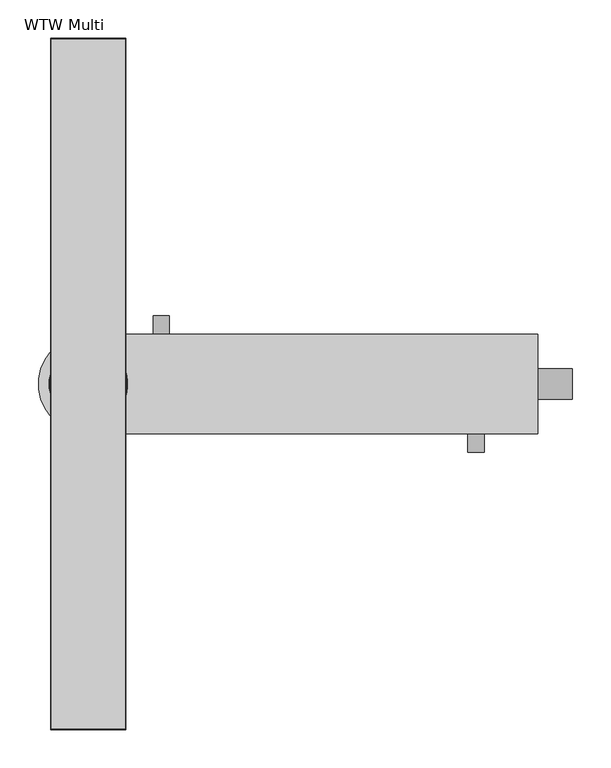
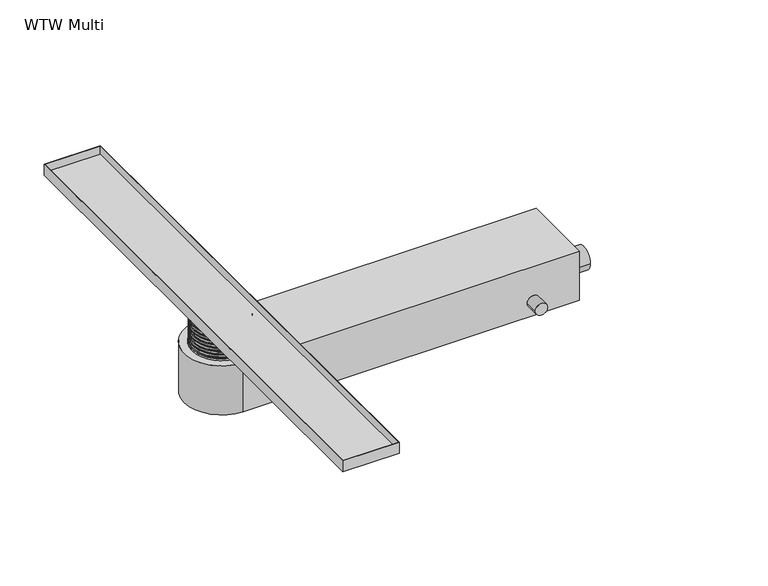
"""IFC4 building model written with IfcOpenShell, lengths in millimetres: sanitary terminal geometry, NLRS_PF_52_UN_WTW systeem Multi grate_Easydrain : WTW Multi."""

import ifcopenshell
import ifcopenshell.guid

model = None  # the IFC model being written
_history = None  # IfcOwnerHistory: only IFC2X3 demands one
_inside = {}  # id of a spatial element -> (the spatial element, [elements in it])
_under = {}  # id of a project, library or spatial element -> (it, [spatial elements below it])
_declared = {}  # id of a project -> (the project, [libraries it declares])
_typed = {}  # id of a type object -> (the type object, [elements of that type])
_made_of = {}  # id of a material, layer set ... -> (it, [elements and type objects made of it])


def new_model(schema):
    """Start an empty IFC model of exactly this schema.

    Asked for "IFC4X3", IfcOpenShell would pick the latest addendum, in which some entities
    have other attributes; the version numbers below select the first issue.
    IFC2X3 requires an IfcOwnerHistory on every rooted entity: one is made here for all.
    """
    global model, _history
    if schema == "IFC4X3":
        model = ifcopenshell.file(schema_version=(4, 3, 0, 0))
    else:
        model = ifcopenshell.file(schema=schema)
    _inside.clear()
    _under.clear()
    _declared.clear()
    _typed.clear()
    _made_of.clear()
    _history = None
    if model.schema == "IFC2X3":
        org = make("IfcOrganization", Name="unknown")
        user = make(
            "IfcPersonAndOrganization",
            ThePerson=make("IfcPerson", FamilyName="unknown"),
            TheOrganization=org,
        )
        app = make(
            "IfcApplication",
            ApplicationDeveloper=org,
            Version="unknown",
            ApplicationFullName="unknown",
            ApplicationIdentifier="unknown",
        )
        _history = make(
            "IfcOwnerHistory",
            OwningUser=user,
            OwningApplication=app,
            ChangeAction="ADDED",
            CreationDate=0,
        )
    return model


def make(cls, **values):
    """One entity of the class cls with the attributes given. An attribute that is None is left unset."""
    return model.create_entity(
        cls, **{name: value for name, value in values.items() if value is not None}
    )


def rooted(cls, **values):
    """An entity with a GlobalId (a new one), such as an element, a storey or a relation."""
    return make(cls, GlobalId=ifcopenshell.guid.new(), OwnerHistory=_history, **values)


def si_unit(unit_type, name, prefix=None):
    """IfcSIUnit, for example si_unit("LENGTHUNIT", "METRE", prefix="MILLI")."""
    return make("IfcSIUnit", UnitType=unit_type, Prefix=prefix, Name=name)


def assignment(units):
    """IfcUnitAssignment: the units of a project."""
    return None if units is None else make("IfcUnitAssignment", Units=units)


def point(xyz):
    """IfcCartesianPoint."""
    return None if xyz is None else make("IfcCartesianPoint", Coordinates=xyz)


def direction(xyz):
    """IfcDirection."""
    return None if xyz is None else make("IfcDirection", DirectionRatios=xyz)


def frame(location, z_axis=None, x_axis=None):
    """IfcAxis2Placement3D, a coordinate frame: its origin and axes. An axis left out is left unset."""
    return make(
        "IfcAxis2Placement3D",
        Location=point(location),
        Axis=direction(z_axis),
        RefDirection=direction(x_axis),
    )


def origin():
    """The frame at (0, 0, 0) with its axes left unset."""
    return frame((0.0, 0.0, 0.0))


def place(relative_to, where):
    """IfcLocalPlacement: puts the frame where relative to a parent placement (None: the world)."""
    return make(
        "IfcLocalPlacement", PlacementRelTo=relative_to, RelativePlacement=where
    )


def context(
    kind, dimensions, precision=None, world=None, true_north=None, identifier=None
):
    """IfcGeometricRepresentationContext, for example the 3D "Model" context."""
    return make(
        "IfcGeometricRepresentationContext",
        ContextIdentifier=identifier,
        ContextType=kind,
        CoordinateSpaceDimension=dimensions,
        Precision=precision,
        WorldCoordinateSystem=world,
        TrueNorth=true_north,
    )


def project(units=None, contexts=None):
    """IfcProject with its units and contexts."""
    return rooted(
        "IfcProject",
        Name="project",
        RepresentationContexts=contexts,
        UnitsInContext=assignment(units),
    )


def spatial(cls, under=None, at=None, **own):
    """A site, building, storey or space (cls), placed at a placement, below another one or the project."""
    s = rooted(cls, ObjectPlacement=at, **own)
    if under is not None:
        _under.setdefault(under.id(), (under, []))[1].append(s)
    return s


def polyline(points):
    """IfcPolyline through the points."""
    return make("IfcPolyline", Points=[point(p) for p in points])


def circle_curve(where, radius):
    """IfcCircle in the frame where."""
    return make("IfcCircle", Position=where, Radius=radius)


def faces_of(points, faces, orient=None, outer=None):
    """IfcFace entities. A face is a list of loops; a loop is a list of indices into points, from 0.

    orient and outer hold one flag for each loop. By default every Orientation is true, the
    first loop of a face is its IfcFaceOuterBound and the others are IfcFaceBound.
    """
    made = []
    for i, loops in enumerate(faces):
        bounds = []
        for j, loop in enumerate(loops):
            is_outer = j == 0 if outer is None else outer[i][j]
            bounds.append(
                make(
                    "IfcFaceOuterBound" if is_outer else "IfcFaceBound",
                    Bound=make("IfcPolyLoop", Polygon=[points[k] for k in loop]),
                    Orientation=True if orient is None else orient[i][j],
                )
            )
        made.append(make("IfcFace", Bounds=bounds))
    return made


def faceted_brep(points, faces, orient=None, outer=None, voids=None):
    """IfcFacetedBrep: a solid bounded by flat faces; with voids (closed shells), ...WithVoids."""
    shared = [point(p) for p in points]
    hull = make("IfcClosedShell", CfsFaces=faces_of(shared, faces, orient, outer))
    if voids is None:
        return make("IfcFacetedBrep", Outer=hull)
    return make(
        "IfcFacetedBrepWithVoids",
        Outer=hull,
        Voids=[
            make(cls, CfsFaces=faces_of(shared, fs, o, b)) for cls, fs, o, b in voids
        ],
    )


def shape(context_of_items, identifier, shape_type, items):
    """IfcShapeRepresentation: the items that make up one representation, for example the "Body"."""
    return make(
        "IfcShapeRepresentation",
        ContextOfItems=context_of_items,
        RepresentationIdentifier=identifier,
        RepresentationType=shape_type,
        Items=items,
    )


def source(mapping_origin, context_of_items, identifier, shape_type, items):
    """IfcRepresentationMap: a shape defined once, which mapped items show again and again."""
    return make(
        "IfcRepresentationMap",
        MappingOrigin=mapping_origin,
        MappedRepresentation=shape(context_of_items, identifier, shape_type, items),
    )


def transform(
    local_origin,
    x_axis=None,
    y_axis=None,
    z_axis=None,
    scale=None,
    scale2=None,
    scale3=None,
    uniform=True,
):
    """IfcCartesianTransformationOperator3D, or its non-uniform kind. x_axis, y_axis, z_axis: its Axis1, 2, 3."""
    if uniform:
        return make(
            "IfcCartesianTransformationOperator3D",
            Axis1=direction(x_axis),
            Axis2=direction(y_axis),
            LocalOrigin=point(local_origin),
            Scale=scale,
            Axis3=direction(z_axis),
        )
    return make(
        "IfcCartesianTransformationOperator3DnonUniform",
        Axis1=direction(x_axis),
        Axis2=direction(y_axis),
        LocalOrigin=point(local_origin),
        Scale=scale,
        Axis3=direction(z_axis),
        Scale2=scale2,
        Scale3=scale3,
    )


def mapped(mapping_source, mapping_target):
    """IfcMappedItem: shows the shape of a source again, moved by a transform."""
    return make(
        "IfcMappedItem", MappingSource=mapping_source, MappingTarget=mapping_target
    )


def made_of(thing, what):
    """Note that an element or type object is made of a material, layer set ...; save() writes the relation."""
    if what is not None:
        _made_of.setdefault(what.id(), (what, []))[1].append(thing)
    return thing


def element(
    cls,
    number,
    at=None,
    inside=None,
    cuts=None,
    type_object=None,
    material=None,
    context=None,
    identifier="Body",
    shape_type=None,
    held_by="IfcProductDefinitionShape",
    body=None,
    shapes=None,
    **own,
):
    """One element of the class cls, such as IfcWall. Its Tag is "e" and its number.

    at: its placement. inside: the storey or other place that contains it. cuts: it is an
    opening in that element (IfcRelVoidsElement). A single representation is given by context,
    identifier, shape_type and body (its items); several are given by shapes. held_by: the class
    of the entity that holds the representations. save() writes the other relations.
    """
    e = rooted(cls, Tag="e%d" % number, ObjectPlacement=at, **own)
    if body is not None:
        shapes = [shape(context, identifier, shape_type, body)]
    if shapes is not None:
        e.Representation = make(held_by, Representations=shapes)
    if inside is not None:
        _inside.setdefault(inside.id(), (inside, []))[1].append(e)
    if cuts is not None:
        rooted(
            "IfcRelVoidsElement", RelatingBuildingElement=cuts, RelatedOpeningElement=e
        )
    if type_object is not None:
        _typed.setdefault(type_object.id(), (type_object, []))[1].append(e)
    return made_of(e, material)


def aggregate(whole, parts):
    """IfcRelAggregates: a whole, such as a stair, and the parts it consists of."""
    return rooted("IfcRelAggregates", RelatingObject=whole, RelatedObjects=parts)


def save(model, path):
    """Write the relations noted so far, then the file.

    IfcRelAggregates (storeys below a building ...), IfcRelContainedInSpatialStructure (elements
    in a storey), IfcRelDefinesByType, IfcRelAssociatesMaterial and IfcRelDeclares: one each for
    every whole, place, type object, material and project.
    """
    for whole, parts in _under.values():
        aggregate(whole, parts)
    for where, things in _inside.values():
        rooted(
            "IfcRelContainedInSpatialStructure",
            RelatedElements=things,
            RelatingStructure=where,
        )
    for kind, things in _typed.values():
        rooted("IfcRelDefinesByType", RelatedObjects=things, RelatingType=kind)
    for what, things in _made_of.values():
        rooted("IfcRelAssociatesMaterial", RelatedObjects=things, RelatingMaterial=what)
    for by, libraries in _declared.values():
        rooted("IfcRelDeclares", RelatingContext=by, RelatedDefinitions=libraries)
    model.write(path)


def plane_surface(at):
    """IfcPlane: the flat surface through the origin of the frame at, square to its z axis."""
    return make("IfcPlane", Position=at)


def cylinder_surface(at, radius):
    """IfcCylindricalSurface: all points at the distance radius from the z axis of the frame at."""
    return make("IfcCylindricalSurface", Position=at, Radius=radius)


def revolved_surface(curve, axis_point, axis_direction):
    """IfcSurfaceOfRevolution: the curve turned about the line through axis_point along axis_direction."""
    return make(
        "IfcSurfaceOfRevolution",
        SweptCurve=make("IfcArbitraryOpenProfileDef", ProfileType="CURVE", Curve=curve),
        AxisPosition=make("IfcAxis1Placement", Location=point(axis_point), Axis=direction(axis_direction)),
    )


def advanced_brep(points, edges, surfaces, faces):
    """IfcAdvancedBrep: a solid bounded by faces that lie on surfaces and meet in shared edges.

    An edge is (start, end): straight between two places in points (the first is 0);
    or (start, end, curve); or (start, end, curve, False) where it runs against its curve.
    A face is (place in surfaces, loops), or (place, loops, False) where it looks against
    its surface's normal. A loop lists edges by number (the first is 1), with a minus sign
    where the edge is run from its end to its start. The first loop is the outer one.
    """
    corners = [point(p) for p in points]
    vertices = [make("IfcVertexPoint", VertexGeometry=c) for c in corners]
    made = []
    for start, end, *more in edges:
        made.append(
            make(
                "IfcEdgeCurve",
                EdgeStart=vertices[start],
                EdgeEnd=vertices[end],
                EdgeGeometry=more[0] if more else make("IfcPolyline", Points=[corners[start], corners[end]]),
                SameSense=more[1] if len(more) > 1 else True,
            )
        )
    hull = []
    for where, loops, *sense in faces:
        bounds = []
        for j, loop in enumerate(loops):
            ring = [make("IfcOrientedEdge", EdgeElement=made[abs(k) - 1], Orientation=k > 0) for k in loop]
            bounds.append(
                make(
                    "IfcFaceOuterBound" if j == 0 else "IfcFaceBound",
                    Bound=make("IfcEdgeLoop", EdgeList=ring),
                    Orientation=True,
                )
            )
        hull.append(make("IfcAdvancedFace", Bounds=bounds, FaceSurface=surfaces[where], SameSense=sense[0] if sense else True))
    return make("IfcAdvancedBrep", Outer=make("IfcClosedShell", CfsFaces=hull))


def wtw_multi_011bf3f1(model_context):
    return source(origin(), model_context, "Body", "SolidModel", [
        faceted_brep([(114.0, -450.0, 50.0), (114.0, 450.0, 50.0), (114.0, 450.0, 70.0), (114.0, -450.0, 70.0), (16.0, -450.0, 50.0), (16.0, -450.0, 70.0), (16.0, 450.0, 70.0), (16.0, 450.0, 50.0), (17.0, -449.0, 70.0), (17.0, 449.0, 70.0), (113.0, 449.0, 70.0), (113.0, -449.0, 70.0), (17.0, 449.0, 55.0), (17.0, -449.0, 55.0), (113.0, -449.0, 55.0), (113.0, 449.0, 55.0)], [[[0, 1, 2, 3]], [[4, 5, 6, 7]], [[2, 1, 7, 6]], [[3, 2, 6, 5], [8, 9, 10, 11]], [[0, 3, 5, 4]], [[12, 13, 14, 15]], [[13, 12, 9, 8]], [[14, 13, 8, 11]], [[15, 14, 11, 10]], [[12, 15, 10, 9]], [[1, 0, 4, 7]]]),
        advanced_brep(
        [(65.0, -51.0, 3.0), (65.0, 51.0, 3.0), (65.0, 51.0, 0.0), (65.0, -51.0, 0.0), (65.0, -48.0, 6.0), (65.0, 48.0, 6.0), (65.0, 48.0, 3.0), (65.0, -48.0, 3.0), (65.0, -50.0, 9.0), (65.0, 50.0, 9.0), (65.0, 50.0, 6.0), (65.0, -50.0, 6.0), (65.0, -48.0, 12.0), (65.0, 48.0, 12.0), (65.0, 48.0, 9.0), (65.0, -48.0, 9.0), (65.0, -50.0, 15.0), (65.0, 50.0, 15.0), (65.0, 50.0, 12.0), (65.0, -50.0, 12.0), (65.0, -48.0, 18.0), (65.0, 48.0, 18.0), (65.0, 48.0, 15.0), (65.0, -48.0, 15.0), (65.0, -50.0, 21.0), (65.0, 50.0, 21.0), (65.0, 50.0, 18.0), (65.0, -50.0, 18.0), (65.0, -48.0, 24.0), (65.0, 48.0, 24.0), (65.0, 48.0, 21.0), (65.0, -48.0, 21.0), (65.0, -50.0, 27.0), (65.0, 50.0, 27.0), (65.0, 50.0, 24.0), (65.0, -50.0, 24.0), (65.0, -48.0, 30.0), (65.0, 48.0, 30.0), (65.0, 48.0, 27.0), (65.0, -48.0, 27.0), (65.0, -50.0, 33.0), (65.0, 50.0, 33.0), (65.0, 50.0, 30.0), (65.0, -50.0, 30.0), (65.0, -48.0, 36.0), (65.0, 48.0, 36.0), (65.0, 48.0, 33.0), (65.0, -48.0, 33.0), (65.0, -46.0, 0.0), (65.0, 46.0, 0.0), (65.0, 46.0, 50.0), (65.0, -46.0, 50.0), (65.0, 50.0, 36.0), (65.0, -50.0, 36.0), (65.0, -50.0, 39.0), (65.0, 50.0, 39.0), (65.0, -48.0, 42.0), (65.0, 48.0, 42.0), (65.0, 48.0, 39.0), (65.0, -48.0, 39.0), (65.0, -50.0, 45.0), (65.0, 50.0, 45.0), (65.0, 50.0, 42.0), (65.0, -50.0, 42.0), (65.0, -48.0, 48.0), (65.0, 48.0, 48.0), (65.0, 48.0, 45.0), (65.0, -48.0, 45.0), (65.0, -50.0, 50.0), (65.0, 50.0, 50.0), (65.0, 50.0, 48.0), (65.0, -50.0, 48.0)],
        [
            (0, 1, circle_curve(frame((65.0, 0.0, 3.0), z_axis=(0.0, 0.0, -1.0), x_axis=(0.0, 1.0, 0.0)), 51.0)),
            (1, 2),
            (2, 3, circle_curve(frame((65.0, 0.0, 0.0), z_axis=(0.0, 0.0, 1.0), x_axis=(0.0, 1.0, 0.0)), 51.0)),
            (3, 0),
            (4, 5, circle_curve(frame((65.0, 0.0, 6.0), z_axis=(0.0, 0.0, -1.0), x_axis=(0.0, 1.0, 0.0)), 48.0)),
            (5, 6),
            (6, 7, circle_curve(frame((65.0, 0.0, 3.0), z_axis=(0.0, 0.0, 1.0), x_axis=(0.0, 1.0, 0.0)), 48.0)),
            (7, 4),
            (8, 9, circle_curve(frame((65.0, 0.0, 9.0), z_axis=(0.0, 0.0, -1.0), x_axis=(0.0, 1.0, 0.0)), 50.0)),
            (9, 10),
            (10, 11, circle_curve(frame((65.0, 0.0, 6.0), z_axis=(0.0, 0.0, 1.0), x_axis=(0.0, 1.0, 0.0)), 50.0)),
            (11, 8),
            (12, 13, circle_curve(frame((65.0, 0.0, 12.0), z_axis=(0.0, 0.0, -1.0), x_axis=(0.0, 1.0, 0.0)), 48.0)),
            (13, 14),
            (14, 15, circle_curve(frame((65.0, 0.0, 9.0), z_axis=(0.0, 0.0, 1.0), x_axis=(0.0, 1.0, 0.0)), 48.0)),
            (15, 12),
            (16, 17, circle_curve(frame((65.0, 0.0, 15.0), z_axis=(0.0, 0.0, -1.0), x_axis=(0.0, 1.0, 0.0)), 50.0)),
            (17, 18),
            (18, 19, circle_curve(frame((65.0, 0.0, 12.0), z_axis=(0.0, 0.0, 1.0), x_axis=(0.0, 1.0, 0.0)), 50.0)),
            (19, 16),
            (20, 21, circle_curve(frame((65.0, 0.0, 18.0), z_axis=(0.0, 0.0, -1.0), x_axis=(0.0, 1.0, 0.0)), 48.0)),
            (21, 22),
            (22, 23, circle_curve(frame((65.0, 0.0, 15.0), z_axis=(0.0, 0.0, 1.0), x_axis=(0.0, 1.0, 0.0)), 48.0)),
            (23, 20),
            (24, 25, circle_curve(frame((65.0, 0.0, 21.0), z_axis=(0.0, 0.0, -1.0), x_axis=(0.0, 1.0, 0.0)), 50.0)),
            (25, 26),
            (26, 27, circle_curve(frame((65.0, 0.0, 18.0), z_axis=(0.0, 0.0, 1.0), x_axis=(0.0, 1.0, 0.0)), 50.0)),
            (27, 24),
            (28, 29, circle_curve(frame((65.0, 0.0, 24.0), z_axis=(0.0, 0.0, -1.0), x_axis=(0.0, 1.0, 0.0)), 48.0)),
            (29, 30),
            (30, 31, circle_curve(frame((65.0, 0.0, 21.0), z_axis=(0.0, 0.0, 1.0), x_axis=(0.0, 1.0, 0.0)), 48.0)),
            (31, 28),
            (32, 33, circle_curve(frame((65.0, 0.0, 27.0), z_axis=(0.0, 0.0, -1.0), x_axis=(0.0, 1.0, 0.0)), 50.0)),
            (33, 34),
            (34, 35, circle_curve(frame((65.0, 0.0, 24.0), z_axis=(0.0, 0.0, 1.0), x_axis=(0.0, 1.0, 0.0)), 50.0)),
            (35, 32),
            (36, 37, circle_curve(frame((65.0, 0.0, 30.0), z_axis=(0.0, 0.0, -1.0), x_axis=(0.0, 1.0, 0.0)), 48.0)),
            (37, 38),
            (38, 39, circle_curve(frame((65.0, 0.0, 27.0), z_axis=(0.0, 0.0, 1.0), x_axis=(0.0, 1.0, 0.0)), 48.0)),
            (39, 36),
            (40, 41, circle_curve(frame((65.0, 0.0, 33.0), z_axis=(0.0, 0.0, -1.0), x_axis=(0.0, 1.0, 0.0)), 50.0)),
            (41, 42),
            (42, 43, circle_curve(frame((65.0, 0.0, 30.0), z_axis=(0.0, 0.0, 1.0), x_axis=(0.0, 1.0, 0.0)), 50.0)),
            (43, 40),
            (44, 45, circle_curve(frame((65.0, 0.0, 36.0), z_axis=(0.0, 0.0, -1.0), x_axis=(0.0, 1.0, 0.0)), 48.0)),
            (45, 46),
            (46, 47, circle_curve(frame((65.0, 0.0, 33.0), z_axis=(0.0, 0.0, 1.0), x_axis=(0.0, 1.0, 0.0)), 48.0)),
            (47, 44),
            (48, 49, circle_curve(frame((65.0, 0.0, 0.0), z_axis=(0.0, 0.0, -1.0), x_axis=(0.0, 1.0, 0.0)), 46.0)),
            (49, 50),
            (50, 51, circle_curve(frame((65.0, 0.0, 50.0), z_axis=(0.0, 0.0, 1.0), x_axis=(0.0, 1.0, 0.0)), 46.0)),
            (51, 48),
            (1, 0, circle_curve(frame((65.0, 0.0, 3.0), z_axis=(0.0, 0.0, -1.0), x_axis=(0.0, -1.0, 0.0)), 51.0)),
            (3, 2, circle_curve(frame((65.0, 0.0, 0.0), z_axis=(0.0, 0.0, 1.0), x_axis=(0.0, -1.0, 0.0)), 51.0)),
            (6, 7, circle_curve(frame((65.0, 0.0, 3.0), z_axis=(0.0, 0.0, -1.0), x_axis=(0.0, -1.0, 0.0)), 48.0)),
            (5, 4, circle_curve(frame((65.0, 0.0, 6.0), z_axis=(0.0, 0.0, -1.0), x_axis=(0.0, -1.0, 0.0)), 48.0)),
            (10, 11, circle_curve(frame((65.0, 0.0, 6.0), z_axis=(0.0, 0.0, -1.0), x_axis=(0.0, -1.0, 0.0)), 50.0)),
            (9, 8, circle_curve(frame((65.0, 0.0, 9.0), z_axis=(0.0, 0.0, -1.0), x_axis=(0.0, -1.0, 0.0)), 50.0)),
            (14, 15, circle_curve(frame((65.0, 0.0, 9.0), z_axis=(0.0, 0.0, -1.0), x_axis=(0.0, -1.0, 0.0)), 48.0)),
            (13, 12, circle_curve(frame((65.0, 0.0, 12.0), z_axis=(0.0, 0.0, -1.0), x_axis=(0.0, -1.0, 0.0)), 48.0)),
            (18, 19, circle_curve(frame((65.0, 0.0, 12.0), z_axis=(0.0, 0.0, -1.0), x_axis=(0.0, -1.0, 0.0)), 50.0)),
            (17, 16, circle_curve(frame((65.0, 0.0, 15.0), z_axis=(0.0, 0.0, -1.0), x_axis=(0.0, -1.0, 0.0)), 50.0)),
            (22, 23, circle_curve(frame((65.0, 0.0, 15.0), z_axis=(0.0, 0.0, -1.0), x_axis=(0.0, -1.0, 0.0)), 48.0)),
            (21, 20, circle_curve(frame((65.0, 0.0, 18.0), z_axis=(0.0, 0.0, -1.0), x_axis=(0.0, -1.0, 0.0)), 48.0)),
            (26, 27, circle_curve(frame((65.0, 0.0, 18.0), z_axis=(0.0, 0.0, -1.0), x_axis=(0.0, -1.0, 0.0)), 50.0)),
            (25, 24, circle_curve(frame((65.0, 0.0, 21.0), z_axis=(0.0, 0.0, -1.0), x_axis=(0.0, -1.0, 0.0)), 50.0)),
            (30, 31, circle_curve(frame((65.0, 0.0, 21.0), z_axis=(0.0, 0.0, -1.0), x_axis=(0.0, -1.0, 0.0)), 48.0)),
            (29, 28, circle_curve(frame((65.0, 0.0, 24.0), z_axis=(0.0, 0.0, -1.0), x_axis=(0.0, -1.0, 0.0)), 48.0)),
            (34, 35, circle_curve(frame((65.0, 0.0, 24.0), z_axis=(0.0, 0.0, -1.0), x_axis=(0.0, -1.0, 0.0)), 50.0)),
            (33, 32, circle_curve(frame((65.0, 0.0, 27.0), z_axis=(0.0, 0.0, -1.0), x_axis=(0.0, -1.0, 0.0)), 50.0)),
            (38, 39, circle_curve(frame((65.0, 0.0, 27.0), z_axis=(0.0, 0.0, -1.0), x_axis=(0.0, -1.0, 0.0)), 48.0)),
            (37, 36, circle_curve(frame((65.0, 0.0, 30.0), z_axis=(0.0, 0.0, -1.0), x_axis=(0.0, -1.0, 0.0)), 48.0)),
            (42, 43, circle_curve(frame((65.0, 0.0, 30.0), z_axis=(0.0, 0.0, -1.0), x_axis=(0.0, -1.0, 0.0)), 50.0)),
            (41, 40, circle_curve(frame((65.0, 0.0, 33.0), z_axis=(0.0, 0.0, -1.0), x_axis=(0.0, -1.0, 0.0)), 50.0)),
            (46, 47, circle_curve(frame((65.0, 0.0, 33.0), z_axis=(0.0, 0.0, -1.0), x_axis=(0.0, -1.0, 0.0)), 48.0)),
            (45, 44, circle_curve(frame((65.0, 0.0, 36.0), z_axis=(0.0, 0.0, -1.0), x_axis=(0.0, -1.0, 0.0)), 48.0)),
            (52, 53, circle_curve(frame((65.0, 0.0, 36.0), z_axis=(0.0, 0.0, -1.0), x_axis=(0.0, -1.0, 0.0)), 50.0)),
            (53, 52, circle_curve(frame((65.0, 0.0, 36.0), z_axis=(0.0, 0.0, -1.0), x_axis=(0.0, 1.0, 0.0)), 50.0)),
            (49, 48, circle_curve(frame((65.0, 0.0, 0.0), z_axis=(0.0, 0.0, -1.0), x_axis=(0.0, -1.0, 0.0)), 46.0)),
            (51, 50, circle_curve(frame((65.0, 0.0, 50.0), z_axis=(0.0, 0.0, 1.0), x_axis=(0.0, -1.0, 0.0)), 46.0)),
            (54, 55, circle_curve(frame((65.0, 0.0, 39.0), z_axis=(0.0, 0.0, -1.0), x_axis=(0.0, 1.0, 0.0)), 50.0)),
            (55, 52),
            (53, 54),
            (56, 57, circle_curve(frame((65.0, 0.0, 42.0), z_axis=(0.0, 0.0, -1.0), x_axis=(0.0, 1.0, 0.0)), 48.0)),
            (57, 58),
            (58, 59, circle_curve(frame((65.0, 0.0, 39.0), z_axis=(0.0, 0.0, 1.0), x_axis=(0.0, 1.0, 0.0)), 48.0)),
            (59, 56),
            (55, 54, circle_curve(frame((65.0, 0.0, 39.0), z_axis=(0.0, 0.0, -1.0), x_axis=(0.0, -1.0, 0.0)), 50.0)),
            (58, 59, circle_curve(frame((65.0, 0.0, 39.0), z_axis=(0.0, 0.0, -1.0), x_axis=(0.0, -1.0, 0.0)), 48.0)),
            (57, 56, circle_curve(frame((65.0, 0.0, 42.0), z_axis=(0.0, 0.0, -1.0), x_axis=(0.0, -1.0, 0.0)), 48.0)),
            (60, 61, circle_curve(frame((65.0, 0.0, 45.0), z_axis=(0.0, 0.0, -1.0), x_axis=(0.0, 1.0, 0.0)), 50.0)),
            (61, 62),
            (62, 63, circle_curve(frame((65.0, 0.0, 42.0), z_axis=(0.0, 0.0, 1.0), x_axis=(0.0, 1.0, 0.0)), 50.0)),
            (63, 60),
            (64, 65, circle_curve(frame((65.0, 0.0, 48.0), z_axis=(0.0, 0.0, -1.0), x_axis=(0.0, 1.0, 0.0)), 48.0)),
            (65, 66),
            (66, 67, circle_curve(frame((65.0, 0.0, 45.0), z_axis=(0.0, 0.0, 1.0), x_axis=(0.0, 1.0, 0.0)), 48.0)),
            (67, 64),
            (68, 69, circle_curve(frame((65.0, 0.0, 50.0), z_axis=(0.0, 0.0, -1.0), x_axis=(0.0, 1.0, 0.0)), 50.0)),
            (69, 70),
            (70, 71, circle_curve(frame((65.0, 0.0, 48.0), z_axis=(0.0, 0.0, 1.0), x_axis=(0.0, 1.0, 0.0)), 50.0)),
            (71, 68),
            (62, 63, circle_curve(frame((65.0, 0.0, 42.0), z_axis=(0.0, 0.0, -1.0), x_axis=(0.0, -1.0, 0.0)), 50.0)),
            (61, 60, circle_curve(frame((65.0, 0.0, 45.0), z_axis=(0.0, 0.0, -1.0), x_axis=(0.0, -1.0, 0.0)), 50.0)),
            (66, 67, circle_curve(frame((65.0, 0.0, 45.0), z_axis=(0.0, 0.0, -1.0), x_axis=(0.0, -1.0, 0.0)), 48.0)),
            (65, 64, circle_curve(frame((65.0, 0.0, 48.0), z_axis=(0.0, 0.0, -1.0), x_axis=(0.0, -1.0, 0.0)), 48.0)),
            (70, 71, circle_curve(frame((65.0, 0.0, 48.0), z_axis=(0.0, 0.0, -1.0), x_axis=(0.0, -1.0, 0.0)), 50.0)),
            (69, 68, circle_curve(frame((65.0, 0.0, 50.0), z_axis=(0.0, 0.0, -1.0), x_axis=(0.0, -1.0, 0.0)), 50.0)),
        ],
        [
            cylinder_surface(frame((65.0, 0.0, 0.0), z_axis=(0.0, 0.0, 1.0), x_axis=(0.0, 1.0, 0.0)), 51.0),
            cylinder_surface(frame((65.0, 0.0, 0.0), z_axis=(0.0, 0.0, 1.0), x_axis=(0.0, 1.0, 0.0)), 48.0),
            cylinder_surface(frame((65.0, 0.0, 0.0), z_axis=(0.0, 0.0, 1.0), x_axis=(0.0, 1.0, 0.0)), 50.0),
            revolved_surface(polyline([(65.0, 46.0, 50.0), (65.0, 46.0, 0.0)]), (65.0, 0.0, 0.0), (0.0, 0.0, 1.0)),
            cylinder_surface(frame((65.0, 0.0, 0.0), z_axis=(0.0, 0.0, 1.0), x_axis=(0.0, -1.0, 0.0)), 51.0),
            plane_surface(frame((65.0, 0.0, 3.0), z_axis=(0.0, 0.0, 1.0), x_axis=(0.0, -1.0, 0.0))),
            cylinder_surface(frame((65.0, 0.0, 0.0), z_axis=(0.0, 0.0, 1.0), x_axis=(0.0, -1.0, 0.0)), 48.0),
            plane_surface(frame((65.0, 0.0, 6.0), z_axis=(0.0, 0.0, -1.0), x_axis=(0.0, -1.0, 0.0))),
            cylinder_surface(frame((65.0, 0.0, 0.0), z_axis=(0.0, 0.0, 1.0), x_axis=(0.0, -1.0, 0.0)), 50.0),
            plane_surface(frame((65.0, 0.0, 9.0), z_axis=(0.0, 0.0, 1.0), x_axis=(0.0, -1.0, 0.0))),
            plane_surface(frame((65.0, 0.0, 12.0), z_axis=(0.0, 0.0, -1.0), x_axis=(0.0, -1.0, 0.0))),
            plane_surface(frame((65.0, 0.0, 15.0), z_axis=(0.0, 0.0, 1.0), x_axis=(0.0, -1.0, 0.0))),
            plane_surface(frame((65.0, 0.0, 18.0), z_axis=(0.0, 0.0, -1.0), x_axis=(0.0, -1.0, 0.0))),
            plane_surface(frame((65.0, 0.0, 21.0), z_axis=(0.0, 0.0, 1.0), x_axis=(0.0, -1.0, 0.0))),
            plane_surface(frame((65.0, 0.0, 24.0), z_axis=(0.0, 0.0, -1.0), x_axis=(0.0, -1.0, 0.0))),
            plane_surface(frame((65.0, 0.0, 27.0), z_axis=(0.0, 0.0, 1.0), x_axis=(0.0, -1.0, 0.0))),
            plane_surface(frame((65.0, 0.0, 30.0), z_axis=(0.0, 0.0, -1.0), x_axis=(0.0, -1.0, 0.0))),
            plane_surface(frame((65.0, 0.0, 33.0), z_axis=(0.0, 0.0, 1.0), x_axis=(0.0, -1.0, 0.0))),
            plane_surface(frame((65.0, 0.0, 36.0), z_axis=(0.0, 0.0, -1.0), x_axis=(0.0, -1.0, 0.0))),
            revolved_surface(polyline([(65.0, -46.0, 50.0), (65.0, -46.0, 0.0)]), (65.0, 0.0, 0.0), (0.0, 0.0, 1.0)),
            plane_surface(frame((65.0, 0.0, 0.0), z_axis=(0.0, 0.0, -1.0), x_axis=(0.0, -1.0, 0.0))),
            plane_surface(frame((65.0, 0.0, 39.0), z_axis=(0.0, 0.0, 1.0), x_axis=(0.0, -1.0, 0.0))),
            plane_surface(frame((65.0, 0.0, 42.0), z_axis=(0.0, 0.0, -1.0), x_axis=(0.0, -1.0, 0.0))),
            plane_surface(frame((65.0, 0.0, 45.0), z_axis=(0.0, 0.0, 1.0), x_axis=(0.0, -1.0, 0.0))),
            plane_surface(frame((65.0, 0.0, 48.0), z_axis=(0.0, 0.0, -1.0), x_axis=(0.0, -1.0, 0.0))),
            plane_surface(frame((65.0, 0.0, 50.0), z_axis=(0.0, 0.0, 1.0), x_axis=(0.0, -1.0, 0.0))),
        ],
        [
            (0, [[1, 2, 3, 4]]),
            (1, [[5, 6, 7, 8]]),
            (2, [[9, 10, 11, 12]]),
            (1, [[13, 14, 15, 16]]),
            (2, [[17, 18, 19, 20]]),
            (1, [[21, 22, 23, 24]]),
            (2, [[25, 26, 27, 28]]),
            (1, [[29, 30, 31, 32]]),
            (2, [[33, 34, 35, 36]]),
            (1, [[37, 38, 39, 40]]),
            (2, [[41, 42, 43, 44]]),
            (1, [[45, 46, 47, 48]]),
            (3, [[49, 50, 51, 52]]),
            (4, [[53, -4, 54, -2]]),
            (5, [[-53, -1], [55, -7]]),
            (6, [[56, -8, -55, -6]]),
            (7, [[57, -11], [-56, -5]]),
            (8, [[58, -12, -57, -10]]),
            (9, [[-58, -9], [59, -15]]),
            (6, [[60, -16, -59, -14]]),
            (10, [[61, -19], [-60, -13]]),
            (8, [[62, -20, -61, -18]]),
            (11, [[-62, -17], [63, -23]]),
            (6, [[64, -24, -63, -22]]),
            (12, [[65, -27], [-64, -21]]),
            (8, [[66, -28, -65, -26]]),
            (13, [[-66, -25], [67, -31]]),
            (6, [[68, -32, -67, -30]]),
            (14, [[69, -35], [-68, -29]]),
            (8, [[70, -36, -69, -34]]),
            (15, [[-70, -33], [71, -39]]),
            (6, [[72, -40, -71, -38]]),
            (16, [[73, -43], [-72, -37]]),
            (8, [[74, -44, -73, -42]]),
            (17, [[-74, -41], [75, -47]]),
            (6, [[76, -48, -75, -46]]),
            (18, [[77, 78], [-76, -45]]),
            (19, [[79, -52, 80, -50]]),
            (20, [[-54, -3], [-79, -49]]),
            (2, [[81, 82, -78, 83]]),
            (1, [[84, 85, 86, 87]]),
            (8, [[88, -83, -77, -82]]),
            (21, [[-88, -81], [89, -86]]),
            (6, [[90, -87, -89, -85]]),
            (2, [[91, 92, 93, 94]]),
            (1, [[95, 96, 97, 98]]),
            (2, [[99, 100, 101, 102]]),
            (22, [[103, -93], [-90, -84]]),
            (8, [[104, -94, -103, -92]]),
            (23, [[-104, -91], [105, -97]]),
            (6, [[106, -98, -105, -96]]),
            (24, [[107, -101], [-106, -95]]),
            (8, [[108, -102, -107, -100]]),
            (25, [[-108, -99], [-80, -51]]),
        ],
    ),
        advanced_brep(
        [(65.0, -65.0, 0.0), (650.0, -65.0, 0.0), (650.0, 65.0, 0.0), (65.0, 65.0, 0.0), (116.0, 0.0, 0.0), (14.0, 0.0, 0.0), (65.0, -65.0, -90.0), (65.0, 65.0, -90.0), (650.0, 65.0, -90.0), (650.0, -65.0, -90.0), (559.35, -65.0, -64.0), (580.65, -65.0, -64.0), (650.0, -20.0, -66.0), (650.0, 20.0, -66.0), (170.65, 65.0, -56.0), (149.35, 65.0, -56.0), (14.0, 0.0, -80.0), (116.0, 0.0, -80.0), (695.0, -20.0, -66.0), (695.0, 20.0, -66.0), (559.35, -89.0, -64.0), (580.65, -89.0, -64.0), (149.35, 89.0, -56.0), (170.65, 89.0, -56.0)],
        [
            (0, 1),
            (1, 2),
            (2, 3),
            (3, 0, circle_curve(frame((65.0, 0.0, 0.0), z_axis=(0.0, 0.0, 1.0), x_axis=(1.0, 0.0, 0.0)), 65.0)),
            (4, 5, circle_curve(frame((65.0, 0.0, 0.0), z_axis=(0.0, 0.0, -1.0), x_axis=(1.0, 0.0, 0.0)), 51.0)),
            (5, 4, circle_curve(frame((65.0, 0.0, 0.0), z_axis=(0.0, 0.0, -1.0), x_axis=(1.0, 0.0, 0.0)), 51.0)),
            (6, 7, circle_curve(frame((65.0, 0.0, -90.0), z_axis=(0.0, 0.0, -1.0), x_axis=(1.0, 0.0, 0.0)), 65.0)),
            (7, 8),
            (8, 9),
            (9, 6),
            (0, 6),
            (9, 1),
            (10, 11, circle_curve(frame((570.0, -65.0, -64.0), z_axis=(0.0, 1.0, 0.0), x_axis=(1.0, 0.0, 0.0)), 10.65)),
            (11, 10, circle_curve(frame((570.0, -65.0, -64.0), z_axis=(0.0, 1.0, 0.0), x_axis=(1.0, 0.0, 0.0)), 10.65)),
            (8, 2),
            (12, 13, circle_curve(frame((650.0, 0.0, -66.0), z_axis=(-1.0, 0.0, 0.0), x_axis=(0.0, 1.0, 0.0)), 20.0)),
            (13, 12, circle_curve(frame((650.0, 0.0, -66.0), z_axis=(-1.0, 0.0, 0.0), x_axis=(0.0, 1.0, 0.0)), 20.0)),
            (7, 3),
            (14, 15, circle_curve(frame((160.0, 65.0, -56.0), z_axis=(0.0, -1.0, 0.0), x_axis=(1.0, 0.0, 0.0)), 10.65)),
            (15, 14, circle_curve(frame((160.0, 65.0, -56.0), z_axis=(0.0, -1.0, 0.0), x_axis=(1.0, 0.0, 0.0)), 10.65)),
            (16, 17, circle_curve(frame((65.0, 0.0, -80.0), z_axis=(0.0, 0.0, 1.0), x_axis=(1.0, 0.0, 0.0)), 51.0)),
            (17, 16, circle_curve(frame((65.0, 0.0, -80.0), z_axis=(0.0, 0.0, 1.0), x_axis=(1.0, 0.0, 0.0)), 51.0)),
            (16, 5),
            (4, 17),
            (18, 19, circle_curve(frame((695.0, 0.0, -66.0), z_axis=(1.0, 0.0, 0.0), x_axis=(0.0, 1.0, 0.0)), 20.0)),
            (19, 18, circle_curve(frame((695.0, 0.0, -66.0), z_axis=(1.0, 0.0, 0.0), x_axis=(0.0, 1.0, 0.0)), 20.0)),
            (19, 13),
            (12, 18),
            (20, 21, circle_curve(frame((570.0, -89.0, -64.0), z_axis=(0.0, -1.0, 0.0), x_axis=(1.0, 0.0, 0.0)), 10.65)),
            (21, 20, circle_curve(frame((570.0, -89.0, -64.0), z_axis=(0.0, -1.0, 0.0), x_axis=(1.0, 0.0, 0.0)), 10.65)),
            (21, 11),
            (10, 20),
            (22, 23, circle_curve(frame((160.0, 89.0, -56.0), z_axis=(0.0, 1.0, 0.0), x_axis=(1.0, 0.0, 0.0)), 10.65)),
            (23, 22, circle_curve(frame((160.0, 89.0, -56.0), z_axis=(0.0, 1.0, 0.0), x_axis=(1.0, 0.0, 0.0)), 10.65)),
            (22, 15),
            (14, 23),
        ],
        [
            plane_surface(frame((650.0, -65.0, 0.0), z_axis=(0.0, 0.0, 1.0), x_axis=(1.0, 0.0, 0.0))),
            plane_surface(frame((650.0, -65.0, -90.0), z_axis=(0.0, 0.0, -1.0), x_axis=(-1.0, 0.0, 0.0))),
            plane_surface(frame((65.0, -65.0, 0.0), z_axis=(0.0, -1.0, 0.0), x_axis=(0.0, 0.0, -1.0))),
            plane_surface(frame((650.0, -65.0, 0.0), z_axis=(1.0, 0.0, 0.0), x_axis=(0.0, 0.0, -1.0))),
            plane_surface(frame((650.0, 65.0, 0.0), z_axis=(0.0, 1.0, 0.0), x_axis=(0.0, 0.0, -1.0))),
            cylinder_surface(frame((65.0, 0.0, -90.0), z_axis=(0.0, 0.0, 1.0), x_axis=(1.0, 0.0, 0.0)), 65.0),
            plane_surface(frame((116.0, 0.0, -80.0), z_axis=(0.0, 0.0, 1.0), x_axis=(0.0, -1.0, 0.0))),
            revolved_surface(polyline([(116.0, 0.0, 0.0), (116.0, 0.0, -80.0)]), (65.0, 0.0, -80.0), (0.0, 0.0, 1.0)),
            plane_surface(frame((695.0, 0.0, -66.0), z_axis=(1.0, 0.0, 0.0), x_axis=(0.0, 0.0, 1.0))),
            cylinder_surface(frame((325.0, 0.0, -66.0), z_axis=(-1.0, 0.0, 0.0), x_axis=(0.0, 1.0, 0.0)), 20.0),
            plane_surface(frame((570.0, -89.0, -64.0), z_axis=(0.0, -1.0, 0.0), x_axis=(0.0, 0.0, 1.0))),
            cylinder_surface(frame((570.0, 0.0, -64.0), z_axis=(0.0, 1.0, 0.0), x_axis=(1.0, 0.0, 0.0)), 10.65),
            plane_surface(frame((160.0, 89.0, -56.0), z_axis=(0.0, 1.0, 0.0), x_axis=(0.0, 0.0, 1.0))),
            cylinder_surface(frame((160.0, 89.0, -56.0), z_axis=(0.0, 1.0, 0.0), x_axis=(1.0, 0.0, 0.0)), 10.65),
        ],
        [
            (0, [[1, 2, 3, 4], [5, 6]]),
            (1, [[7, 8, 9, 10]]),
            (2, [[-1, 11, -10, 12], [13, 14]]),
            (3, [[-2, -12, -9, 15], [16, 17]]),
            (4, [[-3, -15, -8, 18], [19, 20]]),
            (5, [[-4, -18, -7, -11]]),
            (6, [[21, 22]]),
            (7, [[-21, 23, -5, 24]]),
            (7, [[-22, -24, -6, -23]]),
            (8, [[25, 26]]),
            (9, [[-26, 27, -16, 28]]),
            (9, [[-25, -28, -17, -27]]),
            (10, [[29, 30]]),
            (11, [[-30, 31, -13, 32]]),
            (11, [[-29, -32, -14, -31]]),
            (12, [[33, 34]]),
            (13, [[-33, 35, -19, 36]]),
            (13, [[-34, -36, -20, -35]]),
        ],
    ),
    ])


if __name__ == "__main__":
    model = new_model("IFC4")
    model_context = context("Model", 3, world=origin())
    ifc_project = project(units=[si_unit("LENGTHUNIT", "METRE", prefix="MILLI")], contexts=[model_context])
    site = spatial("IfcSite", under=ifc_project)
    building = spatial("IfcBuilding", under=site)
    placement = place(None, origin())
    wtw_multi_shape = wtw_multi_011bf3f1(model_context)
    element("IfcSanitaryTerminal", 1, ObjectType="NLRS_PF_52_UN_WTW systeem Multi grate_Easydrain : WTW Multi", at=placement, inside=building, context=model_context, shape_type="MappedRepresentation", body=[
        mapped(wtw_multi_shape, transform((0.0, 0.0, 0.0), x_axis=(1.0, 0.0, 0.0), y_axis=(0.0, 1.0, 0.0), z_axis=(0.0, 0.0, 1.0))),
    ])
    save(model, "model.ifc")
